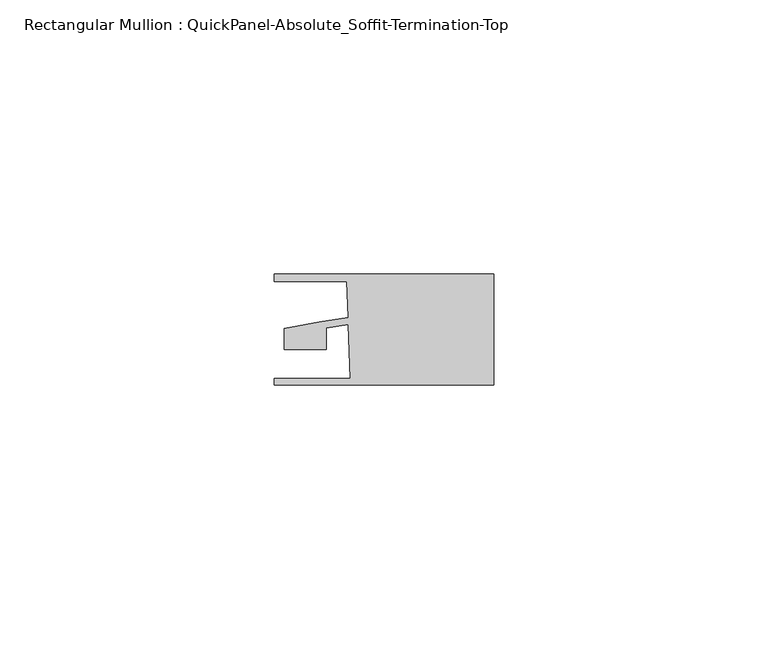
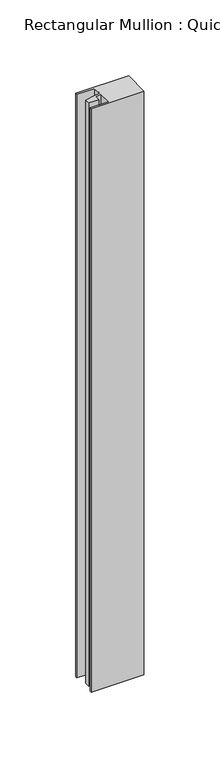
"""IFC4 building model written with IfcOpenShell, lengths in millimetres: member geometry, Rectangular Mullion : QuickPanel-Absolute_Soffit-Termination-Top."""

from ifc_helpers import new_model, si_unit, frame, origin, place, context, project, spatial, polyline, outline, extrude, source, transform, mapped, element, save


def rectangular_mullion_quickpanel_absolute_soffit_termination_899e9dfb(model_context):
    return source(origin(), model_context, "Body", "SweptSolid", [
        extrude(outline(polyline([(-40.0272216, 8.095605), (0.0, 8.095605), (0.0, -12.1803727), (-40.0272216, -12.1803727), (-40.0272216, -10.9303752), (-26.1708682, -10.9303752), (-26.5147952, -1.0815922), (-30.5003642, -1.7648465), (-30.5003642, -5.6493034), (-38.2451373, -5.6493034), (-38.2451373, -1.8040245), (-31.8098046, -0.7008023), (-26.5595237, 0.1992641), (-26.7863089, 6.6935423), (-40.0272216, 6.6935423), (-40.0272216, 8.095605)])), frame((0.0, 0.0, -469.0700779), z_axis=(0.0, 0.0, 1.0), x_axis=(1.0, 0.0, 0.0)), (0.0, 0.0, 1.0), 469.0700779),
    ])


if __name__ == "__main__":
    model = new_model("IFC4")
    model_context = context("Model", 3, world=origin())
    ifc_project = project(units=[si_unit("LENGTHUNIT", "METRE", prefix="MILLI")], contexts=[model_context])
    site = spatial("IfcSite", under=ifc_project)
    building = spatial("IfcBuilding", under=site)
    placement = place(None, origin())
    rectangular_mullion_quickpanel_absolute_soffit_termination_shape = rectangular_mullion_quickpanel_absolute_soffit_termination_899e9dfb(model_context)
    element("IfcMember", 1, ObjectType="Rectangular Mullion : QuickPanel-Absolute_Soffit-Termination-Top", at=placement, inside=building, context=model_context, shape_type="MappedRepresentation", body=[
        mapped(rectangular_mullion_quickpanel_absolute_soffit_termination_shape, transform((0.0, 0.0, 0.0), x_axis=(1.0, 0.0, 0.0), y_axis=(0.0, 1.0, 0.0), z_axis=(0.0, 0.0, 1.0))),
    ])
    save(model, "model.ifc")
